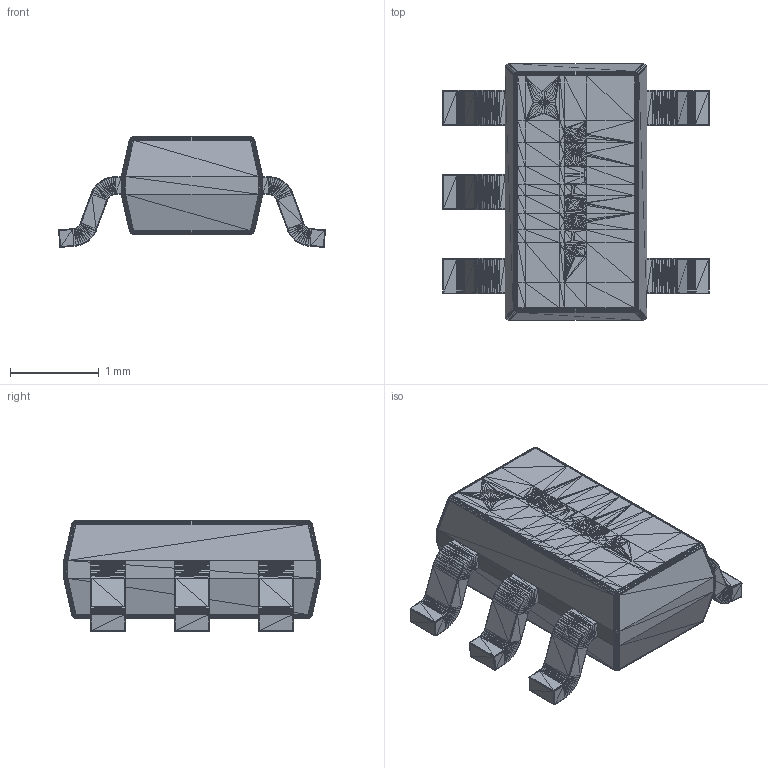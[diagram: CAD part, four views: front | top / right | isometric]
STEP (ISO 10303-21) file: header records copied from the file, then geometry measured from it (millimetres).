
FILE_DESCRIPTION(('auto-generated'),'2;1');
FILE_SCHEMA(('CONFIG_CONTROL_DESIGN'));
Bounding box: 3.01 x 2.9 x 1.25 mm (x, y, z)
Volume: 0.4 mm3; surface area: 24.1 mm2
Topology: 5 solids, 23 shells, 13026 faces, 19991 edges, 6977 vertices
Faces by surface type: plane 13026
Entity records: 191111 total; most frequent: ORIENTED_EDGE 39078, DIRECTION 22163, LINE 19991, EDGE_CURVE 19991, AXIS2_PLACEMENT_3D 13027, PLANE 13026, EDGE_LOOP 13026, FACE_BOUND 13026
